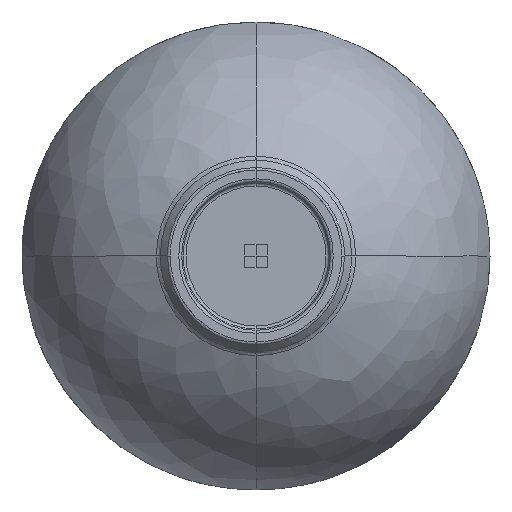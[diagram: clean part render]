
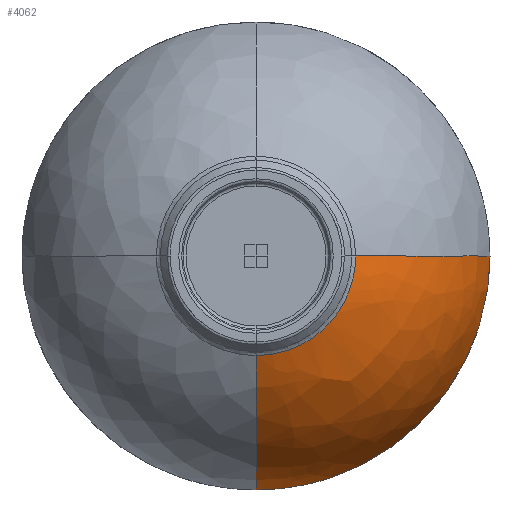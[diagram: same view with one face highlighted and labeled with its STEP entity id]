
A CAD part, front view. The second image highlights one B-rep face of the part: STEP entity #4062.
In plain terms, the highlighted free-form (B-spline) face has degree [3, 3] with [9, 7] control points.
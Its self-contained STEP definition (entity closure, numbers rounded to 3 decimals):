
#875=CARTESIAN_POINT('',(0.,706.919,218.732));
#876=CARTESIAN_POINT('',(0.,712.379,206.013));
#877=CARTESIAN_POINT('',(0.,726.898,
180.259));
#878=CARTESIAN_POINT('',(0.,753.014,151.15));
#879=CARTESIAN_POINT('',(0.,778.901,130.869));
#880=CARTESIAN_POINT('',(0.,800.478,117.785));
#881=CARTESIAN_POINT('',(0.,822.615,107.864));
#882=CARTESIAN_POINT('',(0.,837.941,103.035));
#883=CARTESIAN_POINT('',(0.,845.004,101.219));
#918=CARTESIAN_POINT('',(0.,706.919,218.732));
#919=CARTESIAN_POINT('',(11.41,706.919,218.732));
#920=CARTESIAN_POINT('',(34.252,706.907,223.213));
#921=CARTESIAN_POINT('',(63.235,706.916,242.672));
#922=CARTESIAN_POINT('',(82.648,706.918,271.667));
#923=CARTESIAN_POINT('',(87.204,706.923,294.495));
#924=CARTESIAN_POINT('',(87.199,706.923,305.911));
#926=CARTESIAN_POINT('',(204.711,845.024,305.911));
#927=CARTESIAN_POINT('',(204.711,845.024,303.139));
#928=CARTESIAN_POINT('',(204.601,845.024,297.026));
#929=CARTESIAN_POINT('',(203.863,845.024,286.1));
#930=CARTESIAN_POINT('',(202.316,845.025,273.812));
#931=CARTESIAN_POINT('',(199.768,845.026,260.506));
#932=CARTESIAN_POINT('',(195.937,845.027,245.95));
#933=CARTESIAN_POINT('',(190.093,845.028,229.332));
#934=CARTESIAN_POINT('',(182.306,845.027,212.264));
#935=CARTESIAN_POINT('',(172.294,845.026,194.903));
#936=CARTESIAN_POINT('',(160.665,845.024,178.659));
#937=CARTESIAN_POINT('',(147.523,845.021,163.593));
#938=CARTESIAN_POINT('',(133.012,845.019,149.9));
#939=CARTESIAN_POINT('',(117.383,845.016,137.756));
#940=CARTESIAN_POINT('',(100.466,845.014,127.107));
#941=CARTESIAN_POINT('',(83.871,845.012,118.772));
#942=CARTESIAN_POINT('',(67.773,845.009,112.409));
#943=CARTESIAN_POINT('',(53.362,845.008,108.026));
#944=CARTESIAN_POINT('',(40.434,845.006,105.042));
#945=CARTESIAN_POINT('',(28.431,845.005,103.046));
#946=CARTESIAN_POINT('',(17.473,845.004,101.858));
#947=CARTESIAN_POINT('',(7.806,845.004,101.3));
#948=CARTESIAN_POINT('',(2.426,845.004,101.219));
#949=CARTESIAN_POINT('',(0.,845.004,101.219));
#975=CARTESIAN_POINT('',(87.199,706.923,305.911));
#1009=CARTESIAN_POINT('',(204.711,845.024,305.911));
#1010=CARTESIAN_POINT('',(202.8,837.43,305.911));
#1011=CARTESIAN_POINT('',(197.928,821.314,305.911));
#1012=CARTESIAN_POINT('',(188.308,798.722,305.911));
#1013=CARTESIAN_POINT('',(175.823,777.345,305.911));
#1014=CARTESIAN_POINT('',(166.104,764.77,305.911));
#1015=CARTESIAN_POINT('',(160.922,758.881,305.911));
#1017=CARTESIAN_POINT('',(160.922,758.881,305.911));
#1018=CARTESIAN_POINT('',(150.557,747.103,305.911));
#1019=CARTESIAN_POINT('',(127.836,727.243,305.911));
#1020=CARTESIAN_POINT('',(101.037,712.809,305.911));
#1021=CARTESIAN_POINT('',(87.199,706.923,305.911));
#1397=VERTEX_POINT('',#975);
#1405=CARTESIAN_POINT('',(204.711,845.024,305.911));
#1406=VERTEX_POINT('',#1405);
#1407=VERTEX_POINT('',#1015);
#1441=VERTEX_POINT('',#875);
#1442=VERTEX_POINT('',#883);
#3988=CARTESIAN_POINT('',(204.738,845.133,305.911));
#3989=CARTESIAN_POINT('',(204.725,845.078,278.023));
#3990=CARTESIAN_POINT('',(193.349,845.014,224.335));
#3991=CARTESIAN_POINT('',(148.525,845.034,157.934));
#3992=CARTESIAN_POINT('',(82.599,845.155,112.749));
#3993=CARTESIAN_POINT('',(28.62,845.314,101.139));
#3994=CARTESIAN_POINT('',(0.,845.416,101.113));
#3995=CARTESIAN_POINT('',(202.821,837.5,305.911));
#3996=CARTESIAN_POINT('',(202.785,837.362,278.262));
#3997=CARTESIAN_POINT('',(191.489,837.198,225.086));
#3998=CARTESIAN_POINT('',(147.099,837.248,159.361));
#3999=CARTESIAN_POINT('',(81.839,837.553,114.581));
#4000=CARTESIAN_POINT('',(28.369,837.952,103.02));
#4001=CARTESIAN_POINT('',(0.,838.208,102.951));
#4002=CARTESIAN_POINT('',(197.941,821.346,305.911));
#4003=CARTESIAN_POINT('',(197.843,821.054,278.889));
#4004=CARTESIAN_POINT('',(186.744,820.704,227.011));
#4005=CARTESIAN_POINT('',(143.44,820.798,163.001));
#4006=CARTESIAN_POINT('',(79.858,821.419,119.371));
#4007=CARTESIAN_POINT('',(27.704,822.226,107.991));
#4008=CARTESIAN_POINT('',(0.,822.74,107.808));
#4009=CARTESIAN_POINT('',(188.308,798.722,305.911));
#4010=CARTESIAN_POINT('',(188.093,798.283,280.171));
#4011=CARTESIAN_POINT('',(177.381,797.744,230.853));
#4012=CARTESIAN_POINT('',(136.185,797.847,170.19));
#4013=CARTESIAN_POINT('',(75.849,798.739,128.997));
#4014=CARTESIAN_POINT('',(26.33,799.821,118.126));
#4015=CARTESIAN_POINT('',(0.,800.478,117.785));
#4016=CARTESIAN_POINT('',(175.823,777.345,305.911));
#4017=CARTESIAN_POINT('',(175.486,776.841,281.864));
#4018=CARTESIAN_POINT('',(165.308,776.205,235.868));
#4019=CARTESIAN_POINT('',(126.821,776.27,179.473));
#4020=CARTESIAN_POINT('',(70.624,777.242,141.382));
#4021=CARTESIAN_POINT('',(24.521,778.308,131.284));
#4022=CARTESIAN_POINT('',(0.,778.901,130.869));
#4023=CARTESIAN_POINT('',(156.384,752.195,305.911));
#4024=CARTESIAN_POINT('',(155.92,751.708,284.524));
#4025=CARTESIAN_POINT('',(146.652,751.069,243.699));
#4026=CARTESIAN_POINT('',(112.376,751.048,193.826));
#4027=CARTESIAN_POINT('',(62.529,751.885,160.338));
#4028=CARTESIAN_POINT('',(21.701,752.659,151.515));
#4029=CARTESIAN_POINT('',(0.,753.014,151.15));
#4030=CARTESIAN_POINT('',(127.836,727.243,305.911));
#4031=CARTESIAN_POINT('',(127.348,726.933,288.448));
#4032=CARTESIAN_POINT('',(119.62,726.505,255.173));
#4033=CARTESIAN_POINT('',(91.552,726.366,214.592));
#4034=CARTESIAN_POINT('',(50.844,726.649,187.344));
#4035=CARTESIAN_POINT('',(17.614,726.835,180.388));
#4036=CARTESIAN_POINT('',(0.,726.858,180.305));
#4037=CARTESIAN_POINT('',(101.037,712.809,305.911));
#4038=CARTESIAN_POINT('',(100.792,712.703,292.103));
#4039=CARTESIAN_POINT('',(94.862,712.56,265.745));
#4040=CARTESIAN_POINT('',(72.707,712.462,233.441));
#4041=CARTESIAN_POINT('',(40.347,712.38,211.582));
#4042=CARTESIAN_POINT('',(13.95,712.339,206.075));
#4043=CARTESIAN_POINT('',(0.,712.322,206.114));
#4044=CARTESIAN_POINT('',(87.199,706.923,305.911));
#4045=CARTESIAN_POINT('',(87.165,706.909,293.975));
#4046=CARTESIAN_POINT('',(82.276,706.889,271.123));
#4047=CARTESIAN_POINT('',(63.208,706.875,242.956));
#4048=CARTESIAN_POINT('',(35.093,706.862,223.767));
#4049=CARTESIAN_POINT('',(12.123,706.856,218.88));
#4050=CARTESIAN_POINT('',(0.,706.853,218.886));
#4051=B_SPLINE_SURFACE_WITH_KNOTS('',3,3,((#3988,#3989,#3990,#3991,#3992,#3993,
#3994),(#3995,#3996,#3997,#3998,#3999,#4000,#4001),(#4002,#4003,#4004,#4005,
#4006,#4007,#4008),(#4009,#4010,#4011,#4012,#4013,#4014,#4015),(#4016,#4017,
#4018,#4019,#4020,#4021,#4022),(#4023,#4024,#4025,#4026,#4027,#4028,#4029),(
#4030,#4031,#4032,#4033,#4034,#4035,#4036),(#4037,#4038,#4039,#4040,#4041,#4042,
#4043),(#4044,#4045,#4046,#4047,#4048,#4049,#4050)),.UNSPECIFIED.,.F.,.F.,.F.,
(4,1,1,1,1,1,4),(4,1,1,1,4),(0.022,0.125,0.25,0.375,0.5,
0.75,0.987),(0.,0.252,
0.503,0.752,1.),.UNSPECIFIED.);
#4052=ORIENTED_EDGE('',*,*,#3976,.F.);
#4054=ORIENTED_EDGE('',*,*,#4053,.T.);
#4056=ORIENTED_EDGE('',*,*,#4055,.F.);
#4058=ORIENTED_EDGE('',*,*,#4057,.F.);
#4059=ORIENTED_EDGE('',*,*,#3725,.T.);
#4060=EDGE_LOOP('',(#4052,#4054,#4056,#4058,#4059));
#4061=FACE_OUTER_BOUND('',#4060,.F.);
#4062=ADVANCED_FACE('',(#4061),#4051,.T.);
#884=B_SPLINE_CURVE_WITH_KNOTS('',3,(#875,#876,#877,#878,#879,#880,#881,#882,
#883),.UNSPECIFIED.,.F.,.F.,(4,1,1,1,1,1,4),(0.,0.246,
0.505,0.635,0.765,0.895,1.),
.UNSPECIFIED.);
#925=B_SPLINE_CURVE_WITH_KNOTS('',3,(#918,#919,#920,#921,#922,#923,#924),
.UNSPECIFIED.,.F.,.F.,(4,1,1,1,4),(0.,0.25,0.5,0.75,1.),
.UNSPECIFIED.);
#950=B_SPLINE_CURVE_WITH_KNOTS('',3,(#926,#927,#928,#929,#930,#931,#932,#933,
#934,#935,#936,#937,#938,#939,#940,#941,#942,#943,#944,#945,#946,#947,#948,
#949),.UNSPECIFIED.,.F.,.F.,(4,1,1,1,1,1,1,1,1,1,1,1,1,1,1,1,1,1,1,1,1,4),(0.,
0.048,0.095,0.143,0.19,
0.238,0.286,0.333,0.381,
0.429,0.476,0.524,0.571,
0.619,0.667,0.714,0.762,
0.81,0.857,0.905,0.952,1.),
.UNSPECIFIED.);
#1016=B_SPLINE_CURVE_WITH_KNOTS('',3,(#1009,#1010,#1011,#1012,#1013,#1014,
#1015),.UNSPECIFIED.,.F.,.F.,(4,1,1,1,4),(0.,0.215,
0.477,0.738,1.),.UNSPECIFIED.);
#1022=B_SPLINE_CURVE_WITH_KNOTS('',3,(#1017,#1018,#1019,#1020,#1021),
.UNSPECIFIED.,.F.,.F.,(4,1,4),(0.,0.513,1.),.UNSPECIFIED.);
#3725=EDGE_CURVE('',#1406,#1442,#950,.T.);
#3976=EDGE_CURVE('',#1441,#1442,#884,.T.);
#4053=EDGE_CURVE('',#1441,#1397,#925,.T.);
#4055=EDGE_CURVE('',#1407,#1397,#1022,.T.);
#4057=EDGE_CURVE('',#1406,#1407,#1016,.T.);
